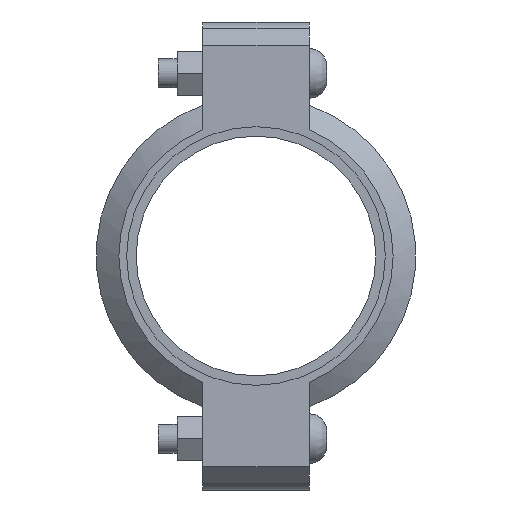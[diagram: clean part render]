
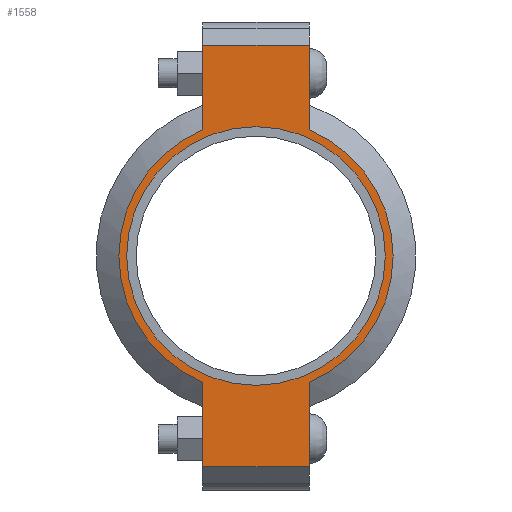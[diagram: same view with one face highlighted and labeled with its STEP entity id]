
A CAD part, left-side view. The second image highlights one B-rep face of the part: STEP entity #1558.
In plain terms, the highlighted planar face has unit normal (-1, 0, 0) as drawn and (0, 0, 1) by its records, which use the part's own axes.
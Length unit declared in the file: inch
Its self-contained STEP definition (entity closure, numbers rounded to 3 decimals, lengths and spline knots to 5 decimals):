
#182=LINE('',#2719,#275);
#190=LINE('',#2755,#283);
#197=LINE('',#2776,#290);
#206=LINE('',#2808,#299);
#207=LINE('',#2812,#300);
#208=LINE('',#2814,#301);
#275=VECTOR('',#2215,0.3937);
#283=VECTOR('',#2231,0.3937);
#290=VECTOR('',#2250,0.3937);
#299=VECTOR('',#2275,0.3937);
#300=VECTOR('',#2280,0.3937);
#301=VECTOR('',#2281,0.3937);
#357=FACE_BOUND('',#535,.T.);
#429=FACE_OUTER_BOUND('',#534,.T.);
#534=EDGE_LOOP('',(#1299,#1300,#1301,#1302,#1303,#1304,#1305,#1306));
#535=EDGE_LOOP('',(#1307));
#607=CIRCLE('',#1777,2.7815);
#633=CIRCLE('',#1836,2.95);
#634=CIRCLE('',#1837,2.95);
#699=VERTEX_POINT('',#2535);
#742=VERTEX_POINT('',#2716);
#743=VERTEX_POINT('',#2718);
#754=VERTEX_POINT('',#2750);
#755=VERTEX_POINT('',#2754);
#762=VERTEX_POINT('',#2773);
#763=VERTEX_POINT('',#2775);
#773=VERTEX_POINT('',#2811);
#774=VERTEX_POINT('',#2813);
#855=EDGE_CURVE('',#699,#699,#607,.T.);
#916=EDGE_CURVE('',#743,#742,#182,.T.);
#930=EDGE_CURVE('',#755,#754,#190,.T.);
#940=EDGE_CURVE('',#763,#762,#197,.T.);
#955=EDGE_CURVE('',#755,#742,#206,.T.);
#956=EDGE_CURVE('',#754,#763,#633,.T.);
#957=EDGE_CURVE('',#773,#762,#207,.T.);
#958=EDGE_CURVE('',#773,#774,#208,.T.);
#959=EDGE_CURVE('',#774,#743,#634,.T.);
#1299=ORIENTED_EDGE('',*,*,#955,.F.);
#1300=ORIENTED_EDGE('',*,*,#930,.T.);
#1301=ORIENTED_EDGE('',*,*,#956,.T.);
#1302=ORIENTED_EDGE('',*,*,#940,.T.);
#1303=ORIENTED_EDGE('',*,*,#957,.F.);
#1304=ORIENTED_EDGE('',*,*,#958,.T.);
#1305=ORIENTED_EDGE('',*,*,#959,.T.);
#1306=ORIENTED_EDGE('',*,*,#916,.T.);
#1307=ORIENTED_EDGE('',*,*,#855,.T.);
#1400=PLANE('',#1835);
#1558=ADVANCED_FACE('',(#429,#357),#1400,.T.);
#1777=AXIS2_PLACEMENT_3D('',#2537,#2091,#2092);
#1835=AXIS2_PLACEMENT_3D('',#2809,#2276,#2277);
#1836=AXIS2_PLACEMENT_3D('',#2810,#2278,#2279);
#1837=AXIS2_PLACEMENT_3D('',#2815,#2282,#2283);
#2091=DIRECTION('center_axis',(0.,0.,-1.));
#2092=DIRECTION('ref_axis',(-1.,0.,0.));
#2215=DIRECTION('',(-1.,0.,0.));
#2231=DIRECTION('',(1.,0.,0.));
#2250=DIRECTION('',(1.,0.,0.));
#2275=DIRECTION('',(0.,1.,0.));
#2276=DIRECTION('center_axis',(0.,0.,1.));
#2277=DIRECTION('ref_axis',(1.,0.,0.));
#2278=DIRECTION('center_axis',(0.,0.,1.));
#2279=DIRECTION('ref_axis',(-1.,0.,0.));
#2280=DIRECTION('',(0.,-1.,0.));
#2281=DIRECTION('',(-1.,0.,0.));
#2282=DIRECTION('center_axis',(0.,0.,1.));
#2283=DIRECTION('ref_axis',(-1.,0.,0.));
#2535=CARTESIAN_POINT('',(2.7815,0.,1.065));
#2537=CARTESIAN_POINT('Origin',(0.,0.,1.065));
#2716=CARTESIAN_POINT('',(-4.535,1.15,1.065));
#2718=CARTESIAN_POINT('',(-2.71662,1.15,1.065));
#2719=CARTESIAN_POINT('',(-5.035,1.15,1.065));
#2750=CARTESIAN_POINT('',(-2.71662,-1.15,1.065));
#2754=CARTESIAN_POINT('',(-4.535,-1.15,1.065));
#2755=CARTESIAN_POINT('',(5.035,-1.15,1.065));
#2773=CARTESIAN_POINT('',(4.535,-1.15,1.065));
#2775=CARTESIAN_POINT('',(2.71662,-1.15,1.065));
#2776=CARTESIAN_POINT('',(5.035,-1.15,1.065));
#2808=CARTESIAN_POINT('',(-4.535,0.575,1.065));
#2809=CARTESIAN_POINT('Origin',(0.,0.,1.065));
#2810=CARTESIAN_POINT('Origin',(0.,0.,1.065));
#2811=CARTESIAN_POINT('',(4.535,1.15,1.065));
#2812=CARTESIAN_POINT('',(4.535,-0.575,1.065));
#2813=CARTESIAN_POINT('',(2.71662,1.15,1.065));
#2814=CARTESIAN_POINT('',(-5.035,1.15,1.065));
#2815=CARTESIAN_POINT('Origin',(0.,0.,1.065));
